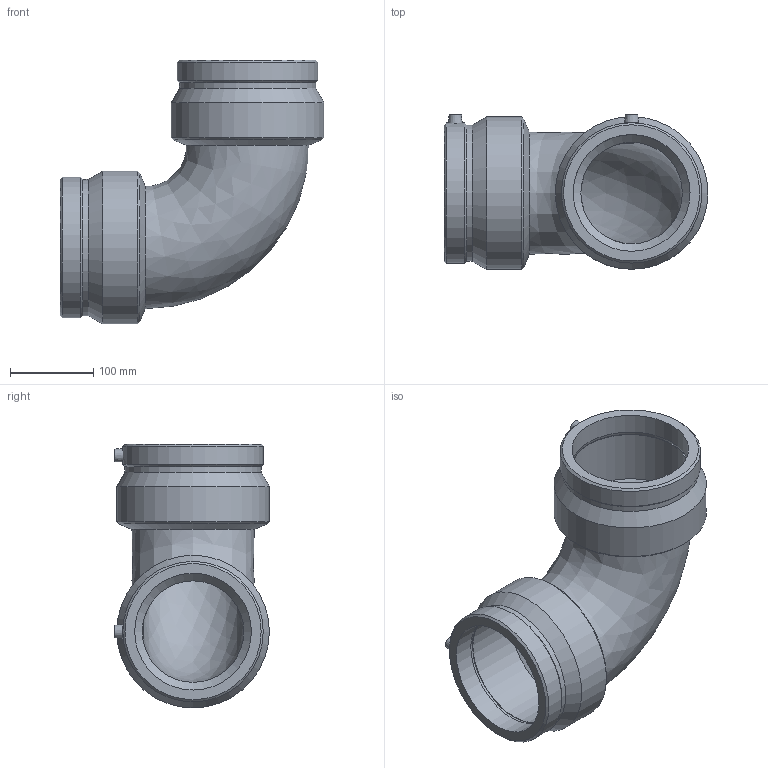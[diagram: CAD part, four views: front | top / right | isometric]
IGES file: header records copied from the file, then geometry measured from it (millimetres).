
Global section: file name: 490504140.ipt; native system: Autodesk Inventor 2015; preprocessor: unknown; author: KIM; date: 20171106.093640; units: millimetre
Bounding box: 316.32 x 185.5 x 316.32 mm (x, y, z)
Volume: 2798906.2 mm3; surface area: 397733.7 mm2
Topology: 1 solids, 1 shells, 42 faces, 98 edges, 64 vertices
Faces by surface type: revolution 12, cone 12, plane 10, cylinder 8
Full cylindrical faces by diameter (mm): 4 x2, 163.309 x2, 168.36 x2, 183 x2
